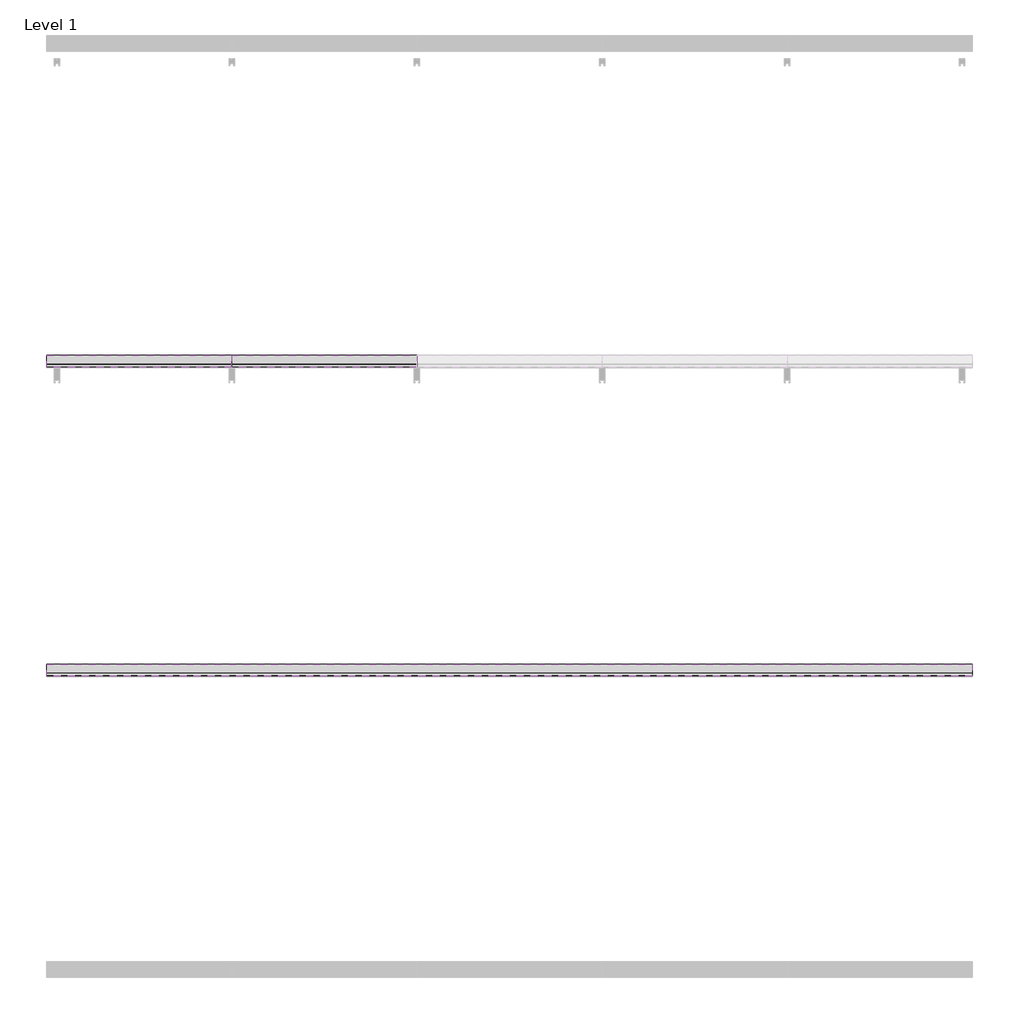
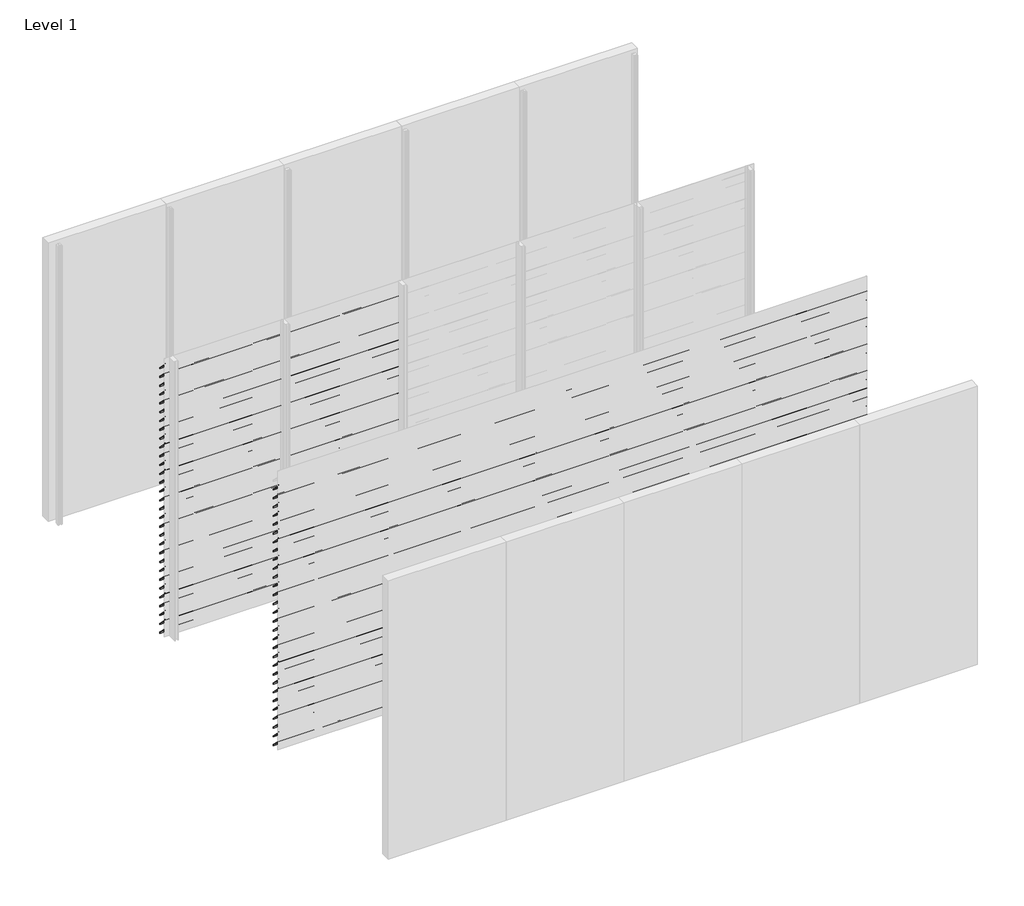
# One storey, part 16 of 24: 89 proxies.
"""IFC4 building model written with IfcOpenShell, lengths in millimetres."""

from ifc_helpers import new_model, si_unit, frame, origin, place, context, project, spatial, polyline, outline, extrude, element, save

model = new_model("IFC4")

# Units and contexts
model_context = context("Model", 3, world=origin())
ifc_project = project(units=[si_unit("LENGTHUNIT", "METRE", prefix="MILLI")], contexts=[model_context])

# Site, building, storey
site = spatial("IfcSite", under=ifc_project)
building = spatial("IfcBuilding", under=site)
storey = spatial("IfcBuildingStorey", under=building, Name="Level 1", Elevation=0.0)

# Proxies
placement = place(None, origin())
element("IfcBuildingElementProxy", 1, Name="Wall Sweeps", at=placement, inside=storey, context=model_context, shape_type="SweptSolid", body=[
    extrude(outline(polyline([(-17920.8, 2842.9), (-17922.3, 2842.9), (-17922.3, 2855.1762333), (-17998.0, 2930.4561238), (-17998.0, 2945.0), (-17996.5, 2945.0), (-17996.5, 2931.0798905), (-17920.8, 2855.8), (-17920.8, 2842.9)])), frame((0.0, 0.0, 0.0), z_axis=(1.0, 0.0, 0.0), x_axis=(0.0, 1.0, 0.0)), (0.0, 0.0, 1.0), 1200.0),
])
element("IfcBuildingElementProxy", 2, Name="Wall Sweeps", at=placement, inside=storey, context=model_context, shape_type="SweptSolid", body=[
    extrude(outline(polyline([(-17920.8, 2747.9), (-17922.3, 2747.9), (-17922.3, 2760.1762333), (-17998.0, 2835.4561238), (-17998.0, 2850.0), (-17996.5, 2850.0), (-17996.5, 2836.0798905), (-17920.8, 2760.8), (-17920.8, 2747.9)])), frame((0.0, 0.0, 0.0), z_axis=(1.0, 0.0, 0.0), x_axis=(0.0, 1.0, 0.0)), (0.0, 0.0, 1.0), 1200.0),
])
element("IfcBuildingElementProxy", 3, Name="Wall Sweeps", at=placement, inside=storey, context=model_context, shape_type="SweptSolid", body=[
    extrude(outline(polyline([(-17920.8, 2652.9), (-17922.3, 2652.9), (-17922.3, 2665.1762333), (-17998.0, 2740.4561238), (-17998.0, 2755.0), (-17996.5, 2755.0), (-17996.5, 2741.0798905), (-17920.8, 2665.8), (-17920.8, 2652.9)])), frame((0.0, 0.0, 0.0), z_axis=(1.0, 0.0, 0.0), x_axis=(0.0, 1.0, 0.0)), (0.0, 0.0, 1.0), 1200.0),
])
element("IfcBuildingElementProxy", 4, Name="Wall Sweeps", at=placement, inside=storey, context=model_context, shape_type="SweptSolid", body=[
    extrude(outline(polyline([(-17920.8, 2557.9), (-17922.3, 2557.9), (-17922.3, 2570.1762333), (-17998.0, 2645.4561238), (-17998.0, 2660.0), (-17996.5, 2660.0), (-17996.5, 2646.0798905), (-17920.8, 2570.8), (-17920.8, 2557.9)])), frame((0.0, 0.0, 0.0), z_axis=(1.0, 0.0, 0.0), x_axis=(0.0, 1.0, 0.0)), (0.0, 0.0, 1.0), 1200.0),
])
element("IfcBuildingElementProxy", 5, Name="Wall Sweeps", at=placement, inside=storey, context=model_context, shape_type="SweptSolid", body=[
    extrude(outline(polyline([(-17920.8, 2462.9), (-17922.3, 2462.9), (-17922.3, 2475.1762333), (-17998.0, 2550.4561238), (-17998.0, 2565.0), (-17996.5, 2565.0), (-17996.5, 2551.0798905), (-17920.8, 2475.8), (-17920.8, 2462.9)])), frame((0.0, 0.0, 0.0), z_axis=(1.0, 0.0, 0.0), x_axis=(0.0, 1.0, 0.0)), (0.0, 0.0, 1.0), 1200.0),
])
element("IfcBuildingElementProxy", 6, Name="Wall Sweeps", at=placement, inside=storey, context=model_context, shape_type="SweptSolid", body=[
    extrude(outline(polyline([(-17920.8, 2367.9), (-17922.3, 2367.9), (-17922.3, 2380.1762333), (-17998.0, 2455.4561238), (-17998.0, 2470.0), (-17996.5, 2470.0), (-17996.5, 2456.0798905), (-17920.8, 2380.8), (-17920.8, 2367.9)])), frame((0.0, 0.0, 0.0), z_axis=(1.0, 0.0, 0.0), x_axis=(0.0, 1.0, 0.0)), (0.0, 0.0, 1.0), 1200.0),
])
element("IfcBuildingElementProxy", 7, Name="Wall Sweeps", at=placement, inside=storey, context=model_context, shape_type="SweptSolid", body=[
    extrude(outline(polyline([(-17920.8, 2272.9), (-17922.3, 2272.9), (-17922.3, 2285.1762333), (-17998.0, 2360.4561238), (-17998.0, 2375.0), (-17996.5, 2375.0), (-17996.5, 2361.0798905), (-17920.8, 2285.8), (-17920.8, 2272.9)])), frame((0.0, 0.0, 0.0), z_axis=(1.0, 0.0, 0.0), x_axis=(0.0, 1.0, 0.0)), (0.0, 0.0, 1.0), 1200.0),
])
element("IfcBuildingElementProxy", 8, Name="Wall Sweeps", at=placement, inside=storey, context=model_context, shape_type="SweptSolid", body=[
    extrude(outline(polyline([(-17920.8, 2177.9), (-17922.3, 2177.9), (-17922.3, 2190.1762333), (-17998.0, 2265.4561238), (-17998.0, 2280.0), (-17996.5, 2280.0), (-17996.5, 2266.0798905), (-17920.8, 2190.8), (-17920.8, 2177.9)])), frame((0.0, 0.0, 0.0), z_axis=(1.0, 0.0, 0.0), x_axis=(0.0, 1.0, 0.0)), (0.0, 0.0, 1.0), 1200.0),
])
element("IfcBuildingElementProxy", 9, Name="Wall Sweeps", at=placement, inside=storey, context=model_context, shape_type="SweptSolid", body=[
    extrude(outline(polyline([(-17920.8, 2082.9), (-17922.3, 2082.9), (-17922.3, 2095.1762333), (-17998.0, 2170.4561238), (-17998.0, 2185.0), (-17996.5, 2185.0), (-17996.5, 2171.0798905), (-17920.8, 2095.8), (-17920.8, 2082.9)])), frame((0.0, 0.0, 0.0), z_axis=(1.0, 0.0, 0.0), x_axis=(0.0, 1.0, 0.0)), (0.0, 0.0, 1.0), 1200.0),
])
element("IfcBuildingElementProxy", 10, Name="Wall Sweeps", at=placement, inside=storey, context=model_context, shape_type="SweptSolid", body=[
    extrude(outline(polyline([(-17920.8, 1987.9), (-17922.3, 1987.9), (-17922.3, 2000.1762333), (-17998.0, 2075.4561238), (-17998.0, 2090.0), (-17996.5, 2090.0), (-17996.5, 2076.0798905), (-17920.8, 2000.8), (-17920.8, 1987.9)])), frame((0.0, 0.0, 0.0), z_axis=(1.0, 0.0, 0.0), x_axis=(0.0, 1.0, 0.0)), (0.0, 0.0, 1.0), 1200.0),
])
element("IfcBuildingElementProxy", 11, Name="Wall Sweeps", at=placement, inside=storey, context=model_context, shape_type="SweptSolid", body=[
    extrude(outline(polyline([(-17920.8, 1892.9), (-17922.3, 1892.9), (-17922.3, 1905.1762333), (-17998.0, 1980.4561238), (-17998.0, 1995.0), (-17996.5, 1995.0), (-17996.5, 1981.0798905), (-17920.8, 1905.8), (-17920.8, 1892.9)])), frame((0.0, 0.0, 0.0), z_axis=(1.0, 0.0, 0.0), x_axis=(0.0, 1.0, 0.0)), (0.0, 0.0, 1.0), 1200.0),
])
element("IfcBuildingElementProxy", 12, Name="Wall Sweeps", at=placement, inside=storey, context=model_context, shape_type="SweptSolid", body=[
    extrude(outline(polyline([(-17920.8, 1797.9), (-17922.3, 1797.9), (-17922.3, 1810.1762333), (-17998.0, 1885.4561238), (-17998.0, 1900.0), (-17996.5, 1900.0), (-17996.5, 1886.0798905), (-17920.8, 1810.8), (-17920.8, 1797.9)])), frame((0.0, 0.0, 0.0), z_axis=(1.0, 0.0, 0.0), x_axis=(0.0, 1.0, 0.0)), (0.0, 0.0, 1.0), 1200.0),
])
element("IfcBuildingElementProxy", 13, Name="Wall Sweeps", at=placement, inside=storey, context=model_context, shape_type="SweptSolid", body=[
    extrude(outline(polyline([(-17920.8, 1702.9), (-17922.3, 1702.9), (-17922.3, 1715.1762333), (-17998.0, 1790.4561238), (-17998.0, 1805.0), (-17996.5, 1805.0), (-17996.5, 1791.0798905), (-17920.8, 1715.8), (-17920.8, 1702.9)])), frame((0.0, 0.0, 0.0), z_axis=(1.0, 0.0, 0.0), x_axis=(0.0, 1.0, 0.0)), (0.0, 0.0, 1.0), 1200.0),
])
element("IfcBuildingElementProxy", 14, Name="Wall Sweeps", at=placement, inside=storey, context=model_context, shape_type="SweptSolid", body=[
    extrude(outline(polyline([(-17920.8, 1607.9), (-17922.3, 1607.9), (-17922.3, 1620.1762333), (-17998.0, 1695.4561238), (-17998.0, 1710.0), (-17996.5, 1710.0), (-17996.5, 1696.0798905), (-17920.8, 1620.8), (-17920.8, 1607.9)])), frame((0.0, 0.0, 0.0), z_axis=(1.0, 0.0, 0.0), x_axis=(0.0, 1.0, 0.0)), (0.0, 0.0, 1.0), 1200.0),
])
element("IfcBuildingElementProxy", 15, Name="Wall Sweeps", at=placement, inside=storey, context=model_context, shape_type="SweptSolid", body=[
    extrude(outline(polyline([(-17920.8, 1512.9), (-17922.3, 1512.9), (-17922.3, 1525.1762333), (-17998.0, 1600.4561238), (-17998.0, 1615.0), (-17996.5, 1615.0), (-17996.5, 1601.0798905), (-17920.8, 1525.8), (-17920.8, 1512.9)])), frame((0.0, 0.0, 0.0), z_axis=(1.0, 0.0, 0.0), x_axis=(0.0, 1.0, 0.0)), (0.0, 0.0, 1.0), 1200.0),
])
element("IfcBuildingElementProxy", 16, Name="Wall Sweeps", at=placement, inside=storey, context=model_context, shape_type="SweptSolid", body=[
    extrude(outline(polyline([(-17920.8, 1417.9), (-17922.3, 1417.9), (-17922.3, 1430.1762333), (-17998.0, 1505.4561238), (-17998.0, 1520.0), (-17996.5, 1520.0), (-17996.5, 1506.0798905), (-17920.8, 1430.8), (-17920.8, 1417.9)])), frame((0.0, 0.0, 0.0), z_axis=(1.0, 0.0, 0.0), x_axis=(0.0, 1.0, 0.0)), (0.0, 0.0, 1.0), 1200.0),
])
element("IfcBuildingElementProxy", 17, Name="Wall Sweeps", at=placement, inside=storey, context=model_context, shape_type="SweptSolid", body=[
    extrude(outline(polyline([(-17920.8, 1322.9), (-17922.3, 1322.9), (-17922.3, 1335.1762333), (-17998.0, 1410.4561238), (-17998.0, 1425.0), (-17996.5, 1425.0), (-17996.5, 1411.0798905), (-17920.8, 1335.8), (-17920.8, 1322.9)])), frame((0.0, 0.0, 0.0), z_axis=(1.0, 0.0, 0.0), x_axis=(0.0, 1.0, 0.0)), (0.0, 0.0, 1.0), 1200.0),
])
element("IfcBuildingElementProxy", 18, Name="Wall Sweeps", at=placement, inside=storey, context=model_context, shape_type="SweptSolid", body=[
    extrude(outline(polyline([(-17920.8, 1227.9), (-17922.3, 1227.9), (-17922.3, 1240.1762333), (-17998.0, 1315.4561238), (-17998.0, 1330.0), (-17996.5, 1330.0), (-17996.5, 1316.0798905), (-17920.8, 1240.8), (-17920.8, 1227.9)])), frame((0.0, 0.0, 0.0), z_axis=(1.0, 0.0, 0.0), x_axis=(0.0, 1.0, 0.0)), (0.0, 0.0, 1.0), 1200.0),
])
element("IfcBuildingElementProxy", 19, Name="Wall Sweeps", at=placement, inside=storey, context=model_context, shape_type="SweptSolid", body=[
    extrude(outline(polyline([(-17920.8, 1132.9), (-17922.3, 1132.9), (-17922.3, 1145.1762333), (-17998.0, 1220.4561238), (-17998.0, 1235.0), (-17996.5, 1235.0), (-17996.5, 1221.0798905), (-17920.8, 1145.8), (-17920.8, 1132.9)])), frame((0.0, 0.0, 0.0), z_axis=(1.0, 0.0, 0.0), x_axis=(0.0, 1.0, 0.0)), (0.0, 0.0, 1.0), 1200.0),
])
element("IfcBuildingElementProxy", 20, Name="Wall Sweeps", at=placement, inside=storey, context=model_context, shape_type="SweptSolid", body=[
    extrude(outline(polyline([(-17920.8, 1037.9), (-17922.3, 1037.9), (-17922.3, 1050.1762333), (-17998.0, 1125.4561238), (-17998.0, 1140.0), (-17996.5, 1140.0), (-17996.5, 1126.0798905), (-17920.8, 1050.8), (-17920.8, 1037.9)])), frame((0.0, 0.0, 0.0), z_axis=(1.0, 0.0, 0.0), x_axis=(0.0, 1.0, 0.0)), (0.0, 0.0, 1.0), 1200.0),
])
element("IfcBuildingElementProxy", 21, Name="Wall Sweeps", at=placement, inside=storey, context=model_context, shape_type="SweptSolid", body=[
    extrude(outline(polyline([(-17920.8, 942.9), (-17922.3, 942.9), (-17922.3, 955.1762333), (-17998.0, 1030.4561238), (-17998.0, 1045.0), (-17996.5, 1045.0), (-17996.5, 1031.0798905), (-17920.8, 955.8), (-17920.8, 942.9)])), frame((0.0, 0.0, 0.0), z_axis=(1.0, 0.0, 0.0), x_axis=(0.0, 1.0, 0.0)), (0.0, 0.0, 1.0), 1200.0),
])
element("IfcBuildingElementProxy", 22, Name="Wall Sweeps", at=placement, inside=storey, context=model_context, shape_type="SweptSolid", body=[
    extrude(outline(polyline([(-17920.8, 847.9), (-17922.3, 847.9), (-17922.3, 860.1762333), (-17998.0, 935.4561238), (-17998.0, 950.0), (-17996.5, 950.0), (-17996.5, 936.0798905), (-17920.8, 860.8), (-17920.8, 847.9)])), frame((0.0, 0.0, 0.0), z_axis=(1.0, 0.0, 0.0), x_axis=(0.0, 1.0, 0.0)), (0.0, 0.0, 1.0), 1200.0),
])
element("IfcBuildingElementProxy", 23, Name="Wall Sweeps", at=placement, inside=storey, context=model_context, shape_type="SweptSolid", body=[
    extrude(outline(polyline([(-17920.8, 752.9), (-17922.3, 752.9), (-17922.3, 765.1762333), (-17998.0, 840.4561238), (-17998.0, 855.0), (-17996.5, 855.0), (-17996.5, 841.0798905), (-17920.8, 765.8), (-17920.8, 752.9)])), frame((0.0, 0.0, 0.0), z_axis=(1.0, 0.0, 0.0), x_axis=(0.0, 1.0, 0.0)), (0.0, 0.0, 1.0), 1200.0),
])
element("IfcBuildingElementProxy", 24, Name="Wall Sweeps", at=placement, inside=storey, context=model_context, shape_type="SweptSolid", body=[
    extrude(outline(polyline([(-17920.8, 657.9), (-17922.3, 657.9), (-17922.3, 670.1762333), (-17998.0, 745.4561238), (-17998.0, 760.0), (-17996.5, 760.0), (-17996.5, 746.0798905), (-17920.8, 670.8), (-17920.8, 657.9)])), frame((0.0, 0.0, 0.0), z_axis=(1.0, 0.0, 0.0), x_axis=(0.0, 1.0, 0.0)), (0.0, 0.0, 1.0), 1200.0),
])
element("IfcBuildingElementProxy", 25, Name="Wall Sweeps", at=placement, inside=storey, context=model_context, shape_type="SweptSolid", body=[
    extrude(outline(polyline([(-17920.8, 562.9), (-17922.3, 562.9), (-17922.3, 575.1762333), (-17998.0, 650.4561238), (-17998.0, 665.0), (-17996.5, 665.0), (-17996.5, 651.0798905), (-17920.8, 575.8), (-17920.8, 562.9)])), frame((0.0, 0.0, 0.0), z_axis=(1.0, 0.0, 0.0), x_axis=(0.0, 1.0, 0.0)), (0.0, 0.0, 1.0), 1200.0),
])
element("IfcBuildingElementProxy", 26, Name="Wall Sweeps", at=placement, inside=storey, context=model_context, shape_type="SweptSolid", body=[
    extrude(outline(polyline([(-17920.8, 467.9), (-17922.3, 467.9), (-17922.3, 480.1762333), (-17998.0, 555.4561238), (-17998.0, 570.0), (-17996.5, 570.0), (-17996.5, 556.0798905), (-17920.8, 480.8), (-17920.8, 467.9)])), frame((0.0, 0.0, 0.0), z_axis=(1.0, 0.0, 0.0), x_axis=(0.0, 1.0, 0.0)), (0.0, 0.0, 1.0), 1200.0),
])
element("IfcBuildingElementProxy", 27, Name="Wall Sweeps", at=placement, inside=storey, context=model_context, shape_type="SweptSolid", body=[
    extrude(outline(polyline([(-17920.8, 372.9), (-17922.3, 372.9), (-17922.3, 385.1762333), (-17998.0, 460.4561238), (-17998.0, 475.0), (-17996.5, 475.0), (-17996.5, 461.0798905), (-17920.8, 385.8), (-17920.8, 372.9)])), frame((0.0, 0.0, 0.0), z_axis=(1.0, 0.0, 0.0), x_axis=(0.0, 1.0, 0.0)), (0.0, 0.0, 1.0), 1200.0),
])
element("IfcBuildingElementProxy", 28, Name="Wall Sweeps", at=placement, inside=storey, context=model_context, shape_type="SweptSolid", body=[
    extrude(outline(polyline([(-17920.8, 277.9), (-17922.3, 277.9), (-17922.3, 290.1762333), (-17998.0, 365.4561238), (-17998.0, 380.0), (-17996.5, 380.0), (-17996.5, 366.0798905), (-17920.8, 290.8), (-17920.8, 277.9)])), frame((0.0, 0.0, 0.0), z_axis=(1.0, 0.0, 0.0), x_axis=(0.0, 1.0, 0.0)), (0.0, 0.0, 1.0), 1200.0),
])
element("IfcBuildingElementProxy", 29, Name="Wall Sweeps", at=placement, inside=storey, context=model_context, shape_type="SweptSolid", body=[
    extrude(outline(polyline([(-17920.8, 182.9), (-17922.3, 182.9), (-17922.3, 195.1762333), (-17998.0, 270.4561238), (-17998.0, 285.0), (-17996.5, 285.0), (-17996.5, 271.0798905), (-17920.8, 195.8), (-17920.8, 182.9)])), frame((0.0, 0.0, 0.0), z_axis=(1.0, 0.0, 0.0), x_axis=(0.0, 1.0, 0.0)), (0.0, 0.0, 1.0), 1200.0),
])
element("IfcBuildingElementProxy", 30, Name="Wall Sweeps", at=placement, inside=storey, context=model_context, shape_type="SweptSolid", body=[
    extrude(outline(polyline([(-17920.8, 87.9), (-17922.3, 87.9), (-17922.3, 100.1762333), (-17998.0, 175.4561238), (-17998.0, 190.0), (-17996.5, 190.0), (-17996.5, 176.0798905), (-17920.8, 100.8), (-17920.8, 87.9)])), frame((0.0, 0.0, 0.0), z_axis=(1.0, 0.0, 0.0), x_axis=(0.0, 1.0, 0.0)), (0.0, 0.0, 1.0), 1200.0),
])
element("IfcBuildingElementProxy", 31, Name="Wall Sweeps", at=placement, inside=storey, context=model_context, shape_type="SweptSolid", body=[
    extrude(outline(polyline([(-17920.8, -7.1), (-17922.3, -7.1), (-17922.3, 5.1762333), (-17998.0, 80.4561238), (-17998.0, 95.0), (-17996.5, 95.0), (-17996.5, 81.0798905), (-17920.8, 5.8), (-17920.8, -7.1)])), frame((0.0, 0.0, 0.0), z_axis=(1.0, 0.0, 0.0), x_axis=(0.0, 1.0, 0.0)), (0.0, 0.0, 1.0), 1200.0),
])
element("IfcBuildingElementProxy", 32, Name="Wall Sweeps", at=placement, inside=storey, context=model_context, shape_type="SweptSolid", body=[
    extrude(outline(polyline([(-17920.8, 2842.9), (-17922.3, 2842.9), (-17922.3, 2855.1762333), (-17998.0, 2930.4561238), (-17998.0, 2945.0), (-17996.5, 2945.0), (-17996.5, 2931.0798905), (-17920.8, 2855.8), (-17920.8, 2842.9)])), frame((1200.0, 0.0, 0.0), z_axis=(1.0, 0.0, 0.0), x_axis=(0.0, 1.0, 0.0)), (0.0, 0.0, 1.0), 1200.0),
])
element("IfcBuildingElementProxy", 33, Name="Wall Sweeps", at=placement, inside=storey, context=model_context, shape_type="SweptSolid", body=[
    extrude(outline(polyline([(-17920.8, 2747.9), (-17922.3, 2747.9), (-17922.3, 2760.1762333), (-17998.0, 2835.4561238), (-17998.0, 2850.0), (-17996.5, 2850.0), (-17996.5, 2836.0798905), (-17920.8, 2760.8), (-17920.8, 2747.9)])), frame((1200.0, 0.0, 0.0), z_axis=(1.0, 0.0, 0.0), x_axis=(0.0, 1.0, 0.0)), (0.0, 0.0, 1.0), 1200.0),
])
element("IfcBuildingElementProxy", 34, Name="Wall Sweeps", at=placement, inside=storey, context=model_context, shape_type="SweptSolid", body=[
    extrude(outline(polyline([(-17920.8, 2652.9), (-17922.3, 2652.9), (-17922.3, 2665.1762333), (-17998.0, 2740.4561238), (-17998.0, 2755.0), (-17996.5, 2755.0), (-17996.5, 2741.0798905), (-17920.8, 2665.8), (-17920.8, 2652.9)])), frame((1200.0, 0.0, 0.0), z_axis=(1.0, 0.0, 0.0), x_axis=(0.0, 1.0, 0.0)), (0.0, 0.0, 1.0), 1200.0),
])
element("IfcBuildingElementProxy", 35, Name="Wall Sweeps", at=placement, inside=storey, context=model_context, shape_type="SweptSolid", body=[
    extrude(outline(polyline([(-17920.8, 2557.9), (-17922.3, 2557.9), (-17922.3, 2570.1762333), (-17998.0, 2645.4561238), (-17998.0, 2660.0), (-17996.5, 2660.0), (-17996.5, 2646.0798905), (-17920.8, 2570.8), (-17920.8, 2557.9)])), frame((1200.0, 0.0, 0.0), z_axis=(1.0, 0.0, 0.0), x_axis=(0.0, 1.0, 0.0)), (0.0, 0.0, 1.0), 1200.0),
])
element("IfcBuildingElementProxy", 36, Name="Wall Sweeps", at=placement, inside=storey, context=model_context, shape_type="SweptSolid", body=[
    extrude(outline(polyline([(-17920.8, 2462.9), (-17922.3, 2462.9), (-17922.3, 2475.1762333), (-17998.0, 2550.4561238), (-17998.0, 2565.0), (-17996.5, 2565.0), (-17996.5, 2551.0798905), (-17920.8, 2475.8), (-17920.8, 2462.9)])), frame((1200.0, 0.0, 0.0), z_axis=(1.0, 0.0, 0.0), x_axis=(0.0, 1.0, 0.0)), (0.0, 0.0, 1.0), 1200.0),
])
element("IfcBuildingElementProxy", 37, Name="Wall Sweeps", at=placement, inside=storey, context=model_context, shape_type="SweptSolid", body=[
    extrude(outline(polyline([(-17920.8, 2367.9), (-17922.3, 2367.9), (-17922.3, 2380.1762333), (-17998.0, 2455.4561238), (-17998.0, 2470.0), (-17996.5, 2470.0), (-17996.5, 2456.0798905), (-17920.8, 2380.8), (-17920.8, 2367.9)])), frame((1200.0, 0.0, 0.0), z_axis=(1.0, 0.0, 0.0), x_axis=(0.0, 1.0, 0.0)), (0.0, 0.0, 1.0), 1200.0),
])
element("IfcBuildingElementProxy", 38, Name="Wall Sweeps", at=placement, inside=storey, context=model_context, shape_type="SweptSolid", body=[
    extrude(outline(polyline([(-17920.8, 2272.9), (-17922.3, 2272.9), (-17922.3, 2285.1762333), (-17998.0, 2360.4561238), (-17998.0, 2375.0), (-17996.5, 2375.0), (-17996.5, 2361.0798905), (-17920.8, 2285.8), (-17920.8, 2272.9)])), frame((1200.0, 0.0, 0.0), z_axis=(1.0, 0.0, 0.0), x_axis=(0.0, 1.0, 0.0)), (0.0, 0.0, 1.0), 1200.0),
])
element("IfcBuildingElementProxy", 39, Name="Wall Sweeps", at=placement, inside=storey, context=model_context, shape_type="SweptSolid", body=[
    extrude(outline(polyline([(-17920.8, 2177.9), (-17922.3, 2177.9), (-17922.3, 2190.1762333), (-17998.0, 2265.4561238), (-17998.0, 2280.0), (-17996.5, 2280.0), (-17996.5, 2266.0798905), (-17920.8, 2190.8), (-17920.8, 2177.9)])), frame((1200.0, 0.0, 0.0), z_axis=(1.0, 0.0, 0.0), x_axis=(0.0, 1.0, 0.0)), (0.0, 0.0, 1.0), 1200.0),
])
element("IfcBuildingElementProxy", 40, Name="Wall Sweeps", at=placement, inside=storey, context=model_context, shape_type="SweptSolid", body=[
    extrude(outline(polyline([(-17920.8, 2082.9), (-17922.3, 2082.9), (-17922.3, 2095.1762333), (-17998.0, 2170.4561238), (-17998.0, 2185.0), (-17996.5, 2185.0), (-17996.5, 2171.0798905), (-17920.8, 2095.8), (-17920.8, 2082.9)])), frame((1200.0, 0.0, 0.0), z_axis=(1.0, 0.0, 0.0), x_axis=(0.0, 1.0, 0.0)), (0.0, 0.0, 1.0), 1200.0),
])
element("IfcBuildingElementProxy", 41, Name="Wall Sweeps", at=placement, inside=storey, context=model_context, shape_type="SweptSolid", body=[
    extrude(outline(polyline([(-17920.8, 1987.9), (-17922.3, 1987.9), (-17922.3, 2000.1762333), (-17998.0, 2075.4561238), (-17998.0, 2090.0), (-17996.5, 2090.0), (-17996.5, 2076.0798905), (-17920.8, 2000.8), (-17920.8, 1987.9)])), frame((1200.0, 0.0, 0.0), z_axis=(1.0, 0.0, 0.0), x_axis=(0.0, 1.0, 0.0)), (0.0, 0.0, 1.0), 1200.0),
])
element("IfcBuildingElementProxy", 42, Name="Wall Sweeps", at=placement, inside=storey, context=model_context, shape_type="SweptSolid", body=[
    extrude(outline(polyline([(-17920.8, 1892.9), (-17922.3, 1892.9), (-17922.3, 1905.1762333), (-17998.0, 1980.4561238), (-17998.0, 1995.0), (-17996.5, 1995.0), (-17996.5, 1981.0798905), (-17920.8, 1905.8), (-17920.8, 1892.9)])), frame((1200.0, 0.0, 0.0), z_axis=(1.0, 0.0, 0.0), x_axis=(0.0, 1.0, 0.0)), (0.0, 0.0, 1.0), 1200.0),
])
element("IfcBuildingElementProxy", 43, Name="Wall Sweeps", at=placement, inside=storey, context=model_context, shape_type="SweptSolid", body=[
    extrude(outline(polyline([(-17920.8, 1797.9), (-17922.3, 1797.9), (-17922.3, 1810.1762333), (-17998.0, 1885.4561238), (-17998.0, 1900.0), (-17996.5, 1900.0), (-17996.5, 1886.0798905), (-17920.8, 1810.8), (-17920.8, 1797.9)])), frame((1200.0, 0.0, 0.0), z_axis=(1.0, 0.0, 0.0), x_axis=(0.0, 1.0, 0.0)), (0.0, 0.0, 1.0), 1200.0),
])
element("IfcBuildingElementProxy", 44, Name="Wall Sweeps", at=placement, inside=storey, context=model_context, shape_type="SweptSolid", body=[
    extrude(outline(polyline([(-17920.8, 1702.9), (-17922.3, 1702.9), (-17922.3, 1715.1762333), (-17998.0, 1790.4561238), (-17998.0, 1805.0), (-17996.5, 1805.0), (-17996.5, 1791.0798905), (-17920.8, 1715.8), (-17920.8, 1702.9)])), frame((1200.0, 0.0, 0.0), z_axis=(1.0, 0.0, 0.0), x_axis=(0.0, 1.0, 0.0)), (0.0, 0.0, 1.0), 1200.0),
])
element("IfcBuildingElementProxy", 45, Name="Wall Sweeps", at=placement, inside=storey, context=model_context, shape_type="SweptSolid", body=[
    extrude(outline(polyline([(-17920.8, 1607.9), (-17922.3, 1607.9), (-17922.3, 1620.1762333), (-17998.0, 1695.4561238), (-17998.0, 1710.0), (-17996.5, 1710.0), (-17996.5, 1696.0798905), (-17920.8, 1620.8), (-17920.8, 1607.9)])), frame((1200.0, 0.0, 0.0), z_axis=(1.0, 0.0, 0.0), x_axis=(0.0, 1.0, 0.0)), (0.0, 0.0, 1.0), 1200.0),
])
element("IfcBuildingElementProxy", 46, Name="Wall Sweeps", at=placement, inside=storey, context=model_context, shape_type="SweptSolid", body=[
    extrude(outline(polyline([(-17920.8, 1512.9), (-17922.3, 1512.9), (-17922.3, 1525.1762333), (-17998.0, 1600.4561238), (-17998.0, 1615.0), (-17996.5, 1615.0), (-17996.5, 1601.0798905), (-17920.8, 1525.8), (-17920.8, 1512.9)])), frame((1200.0, 0.0, 0.0), z_axis=(1.0, 0.0, 0.0), x_axis=(0.0, 1.0, 0.0)), (0.0, 0.0, 1.0), 1200.0),
])
element("IfcBuildingElementProxy", 47, Name="Wall Sweeps", at=placement, inside=storey, context=model_context, shape_type="SweptSolid", body=[
    extrude(outline(polyline([(-17920.8, 1417.9), (-17922.3, 1417.9), (-17922.3, 1430.1762333), (-17998.0, 1505.4561238), (-17998.0, 1520.0), (-17996.5, 1520.0), (-17996.5, 1506.0798905), (-17920.8, 1430.8), (-17920.8, 1417.9)])), frame((1200.0, 0.0, 0.0), z_axis=(1.0, 0.0, 0.0), x_axis=(0.0, 1.0, 0.0)), (0.0, 0.0, 1.0), 1200.0),
])
element("IfcBuildingElementProxy", 48, Name="Wall Sweeps", at=placement, inside=storey, context=model_context, shape_type="SweptSolid", body=[
    extrude(outline(polyline([(-17920.8, 1322.9), (-17922.3, 1322.9), (-17922.3, 1335.1762333), (-17998.0, 1410.4561238), (-17998.0, 1425.0), (-17996.5, 1425.0), (-17996.5, 1411.0798905), (-17920.8, 1335.8), (-17920.8, 1322.9)])), frame((1200.0, 0.0, 0.0), z_axis=(1.0, 0.0, 0.0), x_axis=(0.0, 1.0, 0.0)), (0.0, 0.0, 1.0), 1200.0),
])
element("IfcBuildingElementProxy", 49, Name="Wall Sweeps", at=placement, inside=storey, context=model_context, shape_type="SweptSolid", body=[
    extrude(outline(polyline([(-17920.8, 1227.9), (-17922.3, 1227.9), (-17922.3, 1240.1762333), (-17998.0, 1315.4561238), (-17998.0, 1330.0), (-17996.5, 1330.0), (-17996.5, 1316.0798905), (-17920.8, 1240.8), (-17920.8, 1227.9)])), frame((1200.0, 0.0, 0.0), z_axis=(1.0, 0.0, 0.0), x_axis=(0.0, 1.0, 0.0)), (0.0, 0.0, 1.0), 1200.0),
])
element("IfcBuildingElementProxy", 50, Name="Wall Sweeps", at=placement, inside=storey, context=model_context, shape_type="SweptSolid", body=[
    extrude(outline(polyline([(-17920.8, 1132.9), (-17922.3, 1132.9), (-17922.3, 1145.1762333), (-17998.0, 1220.4561238), (-17998.0, 1235.0), (-17996.5, 1235.0), (-17996.5, 1221.0798905), (-17920.8, 1145.8), (-17920.8, 1132.9)])), frame((1200.0, 0.0, 0.0), z_axis=(1.0, 0.0, 0.0), x_axis=(0.0, 1.0, 0.0)), (0.0, 0.0, 1.0), 1200.0),
])
element("IfcBuildingElementProxy", 51, Name="Wall Sweeps", at=placement, inside=storey, context=model_context, shape_type="SweptSolid", body=[
    extrude(outline(polyline([(-17920.8, 1037.9), (-17922.3, 1037.9), (-17922.3, 1050.1762333), (-17998.0, 1125.4561238), (-17998.0, 1140.0), (-17996.5, 1140.0), (-17996.5, 1126.0798905), (-17920.8, 1050.8), (-17920.8, 1037.9)])), frame((1200.0, 0.0, 0.0), z_axis=(1.0, 0.0, 0.0), x_axis=(0.0, 1.0, 0.0)), (0.0, 0.0, 1.0), 1200.0),
])
element("IfcBuildingElementProxy", 52, Name="Wall Sweeps", at=placement, inside=storey, context=model_context, shape_type="SweptSolid", body=[
    extrude(outline(polyline([(-17920.8, 942.9), (-17922.3, 942.9), (-17922.3, 955.1762333), (-17998.0, 1030.4561238), (-17998.0, 1045.0), (-17996.5, 1045.0), (-17996.5, 1031.0798905), (-17920.8, 955.8), (-17920.8, 942.9)])), frame((1200.0, 0.0, 0.0), z_axis=(1.0, 0.0, 0.0), x_axis=(0.0, 1.0, 0.0)), (0.0, 0.0, 1.0), 1200.0),
])
element("IfcBuildingElementProxy", 53, Name="Wall Sweeps", at=placement, inside=storey, context=model_context, shape_type="SweptSolid", body=[
    extrude(outline(polyline([(-17920.8, 847.9), (-17922.3, 847.9), (-17922.3, 860.1762333), (-17998.0, 935.4561238), (-17998.0, 950.0), (-17996.5, 950.0), (-17996.5, 936.0798905), (-17920.8, 860.8), (-17920.8, 847.9)])), frame((1200.0, 0.0, 0.0), z_axis=(1.0, 0.0, 0.0), x_axis=(0.0, 1.0, 0.0)), (0.0, 0.0, 1.0), 1200.0),
])
element("IfcBuildingElementProxy", 54, Name="Wall Sweeps", at=placement, inside=storey, context=model_context, shape_type="SweptSolid", body=[
    extrude(outline(polyline([(-17920.8, 752.9), (-17922.3, 752.9), (-17922.3, 765.1762333), (-17998.0, 840.4561238), (-17998.0, 855.0), (-17996.5, 855.0), (-17996.5, 841.0798905), (-17920.8, 765.8), (-17920.8, 752.9)])), frame((1200.0, 0.0, 0.0), z_axis=(1.0, 0.0, 0.0), x_axis=(0.0, 1.0, 0.0)), (0.0, 0.0, 1.0), 1200.0),
])
element("IfcBuildingElementProxy", 55, Name="Wall Sweeps", at=placement, inside=storey, context=model_context, shape_type="SweptSolid", body=[
    extrude(outline(polyline([(-17920.8, 657.9), (-17922.3, 657.9), (-17922.3, 670.1762333), (-17998.0, 745.4561238), (-17998.0, 760.0), (-17996.5, 760.0), (-17996.5, 746.0798905), (-17920.8, 670.8), (-17920.8, 657.9)])), frame((1200.0, 0.0, 0.0), z_axis=(1.0, 0.0, 0.0), x_axis=(0.0, 1.0, 0.0)), (0.0, 0.0, 1.0), 1200.0),
])
element("IfcBuildingElementProxy", 56, Name="Wall Sweeps", at=placement, inside=storey, context=model_context, shape_type="SweptSolid", body=[
    extrude(outline(polyline([(-17920.8, 562.9), (-17922.3, 562.9), (-17922.3, 575.1762333), (-17998.0, 650.4561238), (-17998.0, 665.0), (-17996.5, 665.0), (-17996.5, 651.0798905), (-17920.8, 575.8), (-17920.8, 562.9)])), frame((1200.0, 0.0, 0.0), z_axis=(1.0, 0.0, 0.0), x_axis=(0.0, 1.0, 0.0)), (0.0, 0.0, 1.0), 1200.0),
])
element("IfcBuildingElementProxy", 57, Name="Wall Sweeps", at=placement, inside=storey, context=model_context, shape_type="SweptSolid", body=[
    extrude(outline(polyline([(-17920.8, 467.9), (-17922.3, 467.9), (-17922.3, 480.1762333), (-17998.0, 555.4561238), (-17998.0, 570.0), (-17996.5, 570.0), (-17996.5, 556.0798905), (-17920.8, 480.8), (-17920.8, 467.9)])), frame((1200.0, 0.0, 0.0), z_axis=(1.0, 0.0, 0.0), x_axis=(0.0, 1.0, 0.0)), (0.0, 0.0, 1.0), 1200.0),
])
element("IfcBuildingElementProxy", 58, Name="Wall Sweeps", at=placement, inside=storey, context=model_context, shape_type="SweptSolid", body=[
    extrude(outline(polyline([(-17920.8, 372.9), (-17922.3, 372.9), (-17922.3, 385.1762333), (-17998.0, 460.4561238), (-17998.0, 475.0), (-17996.5, 475.0), (-17996.5, 461.0798905), (-17920.8, 385.8), (-17920.8, 372.9)])), frame((1200.0, 0.0, 0.0), z_axis=(1.0, 0.0, 0.0), x_axis=(0.0, 1.0, 0.0)), (0.0, 0.0, 1.0), 1200.0),
])
element("IfcBuildingElementProxy", 59, Name="Wall Sweeps", at=placement, inside=storey, context=model_context, shape_type="SweptSolid", body=[
    extrude(outline(polyline([(-17920.8, 277.9), (-17922.3, 277.9), (-17922.3, 290.1762333), (-17998.0, 365.4561238), (-17998.0, 380.0), (-17996.5, 380.0), (-17996.5, 366.0798905), (-17920.8, 290.8), (-17920.8, 277.9)])), frame((1200.0, 0.0, 0.0), z_axis=(1.0, 0.0, 0.0), x_axis=(0.0, 1.0, 0.0)), (0.0, 0.0, 1.0), 1200.0),
])
element("IfcBuildingElementProxy", 60, Name="Wall Sweeps", at=placement, inside=storey, context=model_context, shape_type="SweptSolid", body=[
    extrude(outline(polyline([(-19920.8, 2747.9), (-19922.3, 2747.9), (-19922.3, 2760.1762333), (-19998.0, 2835.4561238), (-19998.0, 2850.0), (-19996.5, 2850.0), (-19996.5, 2836.0798905), (-19920.8, 2760.8), (-19920.8, 2747.9)])), frame((0.0, 0.0, 0.0), z_axis=(1.0, 0.0, 0.0), x_axis=(0.0, 1.0, 0.0)), (0.0, 0.0, 1.0), 6000.0),
])
element("IfcBuildingElementProxy", 61, Name="Wall Sweeps", at=placement, inside=storey, context=model_context, shape_type="SweptSolid", body=[
    extrude(outline(polyline([(-19920.8, 2652.9), (-19922.3, 2652.9), (-19922.3, 2665.1762333), (-19998.0, 2740.4561238), (-19998.0, 2755.0), (-19996.5, 2755.0), (-19996.5, 2741.0798905), (-19920.8, 2665.8), (-19920.8, 2652.9)])), frame((0.0, 0.0, 0.0), z_axis=(1.0, 0.0, 0.0), x_axis=(0.0, 1.0, 0.0)), (0.0, 0.0, 1.0), 6000.0),
])
element("IfcBuildingElementProxy", 62, Name="Wall Sweeps", at=placement, inside=storey, context=model_context, shape_type="SweptSolid", body=[
    extrude(outline(polyline([(-19920.8, 2557.9), (-19922.3, 2557.9), (-19922.3, 2570.1762333), (-19998.0, 2645.4561238), (-19998.0, 2660.0), (-19996.5, 2660.0), (-19996.5, 2646.0798905), (-19920.8, 2570.8), (-19920.8, 2557.9)])), frame((0.0, 0.0, 0.0), z_axis=(1.0, 0.0, 0.0), x_axis=(0.0, 1.0, 0.0)), (0.0, 0.0, 1.0), 6000.0),
])
element("IfcBuildingElementProxy", 63, Name="Wall Sweeps", at=placement, inside=storey, context=model_context, shape_type="SweptSolid", body=[
    extrude(outline(polyline([(-19920.8, 2462.9), (-19922.3, 2462.9), (-19922.3, 2475.1762333), (-19998.0, 2550.4561238), (-19998.0, 2565.0), (-19996.5, 2565.0), (-19996.5, 2551.0798905), (-19920.8, 2475.8), (-19920.8, 2462.9)])), frame((0.0, 0.0, 0.0), z_axis=(1.0, 0.0, 0.0), x_axis=(0.0, 1.0, 0.0)), (0.0, 0.0, 1.0), 6000.0),
])
element("IfcBuildingElementProxy", 64, Name="Wall Sweeps", at=placement, inside=storey, context=model_context, shape_type="SweptSolid", body=[
    extrude(outline(polyline([(-19920.8, 2367.9), (-19922.3, 2367.9), (-19922.3, 2380.1762333), (-19998.0, 2455.4561238), (-19998.0, 2470.0), (-19996.5, 2470.0), (-19996.5, 2456.0798905), (-19920.8, 2380.8), (-19920.8, 2367.9)])), frame((0.0, 0.0, 0.0), z_axis=(1.0, 0.0, 0.0), x_axis=(0.0, 1.0, 0.0)), (0.0, 0.0, 1.0), 6000.0),
])
element("IfcBuildingElementProxy", 65, Name="Wall Sweeps", at=placement, inside=storey, context=model_context, shape_type="SweptSolid", body=[
    extrude(outline(polyline([(-19920.8, 2272.9), (-19922.3, 2272.9), (-19922.3, 2285.1762333), (-19998.0, 2360.4561238), (-19998.0, 2375.0), (-19996.5, 2375.0), (-19996.5, 2361.0798905), (-19920.8, 2285.8), (-19920.8, 2272.9)])), frame((0.0, 0.0, 0.0), z_axis=(1.0, 0.0, 0.0), x_axis=(0.0, 1.0, 0.0)), (0.0, 0.0, 1.0), 6000.0),
])
element("IfcBuildingElementProxy", 66, Name="Wall Sweeps", at=placement, inside=storey, context=model_context, shape_type="SweptSolid", body=[
    extrude(outline(polyline([(-19920.8, 2177.9), (-19922.3, 2177.9), (-19922.3, 2190.1762333), (-19998.0, 2265.4561238), (-19998.0, 2280.0), (-19996.5, 2280.0), (-19996.5, 2266.0798905), (-19920.8, 2190.8), (-19920.8, 2177.9)])), frame((0.0, 0.0, 0.0), z_axis=(1.0, 0.0, 0.0), x_axis=(0.0, 1.0, 0.0)), (0.0, 0.0, 1.0), 6000.0),
])
element("IfcBuildingElementProxy", 67, Name="Wall Sweeps", at=placement, inside=storey, context=model_context, shape_type="SweptSolid", body=[
    extrude(outline(polyline([(-19920.8, 2082.9), (-19922.3, 2082.9), (-19922.3, 2095.1762333), (-19998.0, 2170.4561238), (-19998.0, 2185.0), (-19996.5, 2185.0), (-19996.5, 2171.0798905), (-19920.8, 2095.8), (-19920.8, 2082.9)])), frame((0.0, 0.0, 0.0), z_axis=(1.0, 0.0, 0.0), x_axis=(0.0, 1.0, 0.0)), (0.0, 0.0, 1.0), 6000.0),
])
element("IfcBuildingElementProxy", 68, Name="Wall Sweeps", at=placement, inside=storey, context=model_context, shape_type="SweptSolid", body=[
    extrude(outline(polyline([(-19920.8, 1987.9), (-19922.3, 1987.9), (-19922.3, 2000.1762333), (-19998.0, 2075.4561238), (-19998.0, 2090.0), (-19996.5, 2090.0), (-19996.5, 2076.0798905), (-19920.8, 2000.8), (-19920.8, 1987.9)])), frame((0.0, 0.0, 0.0), z_axis=(1.0, 0.0, 0.0), x_axis=(0.0, 1.0, 0.0)), (0.0, 0.0, 1.0), 6000.0),
])
element("IfcBuildingElementProxy", 69, Name="Wall Sweeps", at=placement, inside=storey, context=model_context, shape_type="SweptSolid", body=[
    extrude(outline(polyline([(-19920.8, 1892.9), (-19922.3, 1892.9), (-19922.3, 1905.1762333), (-19998.0, 1980.4561238), (-19998.0, 1995.0), (-19996.5, 1995.0), (-19996.5, 1981.0798905), (-19920.8, 1905.8), (-19920.8, 1892.9)])), frame((0.0, 0.0, 0.0), z_axis=(1.0, 0.0, 0.0), x_axis=(0.0, 1.0, 0.0)), (0.0, 0.0, 1.0), 6000.0),
])
element("IfcBuildingElementProxy", 70, Name="Wall Sweeps", at=placement, inside=storey, context=model_context, shape_type="SweptSolid", body=[
    extrude(outline(polyline([(-19920.8, 1797.9), (-19922.3, 1797.9), (-19922.3, 1810.1762333), (-19998.0, 1885.4561238), (-19998.0, 1900.0), (-19996.5, 1900.0), (-19996.5, 1886.0798905), (-19920.8, 1810.8), (-19920.8, 1797.9)])), frame((0.0, 0.0, 0.0), z_axis=(1.0, 0.0, 0.0), x_axis=(0.0, 1.0, 0.0)), (0.0, 0.0, 1.0), 6000.0),
])
element("IfcBuildingElementProxy", 71, Name="Wall Sweeps", at=placement, inside=storey, context=model_context, shape_type="SweptSolid", body=[
    extrude(outline(polyline([(-19920.8, 1702.9), (-19922.3, 1702.9), (-19922.3, 1715.1762333), (-19998.0, 1790.4561238), (-19998.0, 1805.0), (-19996.5, 1805.0), (-19996.5, 1791.0798905), (-19920.8, 1715.8), (-19920.8, 1702.9)])), frame((0.0, 0.0, 0.0), z_axis=(1.0, 0.0, 0.0), x_axis=(0.0, 1.0, 0.0)), (0.0, 0.0, 1.0), 6000.0),
])
element("IfcBuildingElementProxy", 72, Name="Wall Sweeps", at=placement, inside=storey, context=model_context, shape_type="SweptSolid", body=[
    extrude(outline(polyline([(-19920.8, 1607.9), (-19922.3, 1607.9), (-19922.3, 1620.1762333), (-19998.0, 1695.4561238), (-19998.0, 1710.0), (-19996.5, 1710.0), (-19996.5, 1696.0798905), (-19920.8, 1620.8), (-19920.8, 1607.9)])), frame((0.0, 0.0, 0.0), z_axis=(1.0, 0.0, 0.0), x_axis=(0.0, 1.0, 0.0)), (0.0, 0.0, 1.0), 6000.0),
])
element("IfcBuildingElementProxy", 73, Name="Wall Sweeps", at=placement, inside=storey, context=model_context, shape_type="SweptSolid", body=[
    extrude(outline(polyline([(-19920.8, 1512.9), (-19922.3, 1512.9), (-19922.3, 1525.1762333), (-19998.0, 1600.4561238), (-19998.0, 1615.0), (-19996.5, 1615.0), (-19996.5, 1601.0798905), (-19920.8, 1525.8), (-19920.8, 1512.9)])), frame((0.0, 0.0, 0.0), z_axis=(1.0, 0.0, 0.0), x_axis=(0.0, 1.0, 0.0)), (0.0, 0.0, 1.0), 6000.0),
])
element("IfcBuildingElementProxy", 74, Name="Wall Sweeps", at=placement, inside=storey, context=model_context, shape_type="SweptSolid", body=[
    extrude(outline(polyline([(-19920.8, 1417.9), (-19922.3, 1417.9), (-19922.3, 1430.1762333), (-19998.0, 1505.4561238), (-19998.0, 1520.0), (-19996.5, 1520.0), (-19996.5, 1506.0798905), (-19920.8, 1430.8), (-19920.8, 1417.9)])), frame((0.0, 0.0, 0.0), z_axis=(1.0, 0.0, 0.0), x_axis=(0.0, 1.0, 0.0)), (0.0, 0.0, 1.0), 6000.0),
])
element("IfcBuildingElementProxy", 75, Name="Wall Sweeps", at=placement, inside=storey, context=model_context, shape_type="SweptSolid", body=[
    extrude(outline(polyline([(-19920.8, 1322.9), (-19922.3, 1322.9), (-19922.3, 1335.1762333), (-19998.0, 1410.4561238), (-19998.0, 1425.0), (-19996.5, 1425.0), (-19996.5, 1411.0798905), (-19920.8, 1335.8), (-19920.8, 1322.9)])), frame((0.0, 0.0, 0.0), z_axis=(1.0, 0.0, 0.0), x_axis=(0.0, 1.0, 0.0)), (0.0, 0.0, 1.0), 6000.0),
])
element("IfcBuildingElementProxy", 76, Name="Wall Sweeps", at=placement, inside=storey, context=model_context, shape_type="SweptSolid", body=[
    extrude(outline(polyline([(-19920.8, 1227.9), (-19922.3, 1227.9), (-19922.3, 1240.1762333), (-19998.0, 1315.4561238), (-19998.0, 1330.0), (-19996.5, 1330.0), (-19996.5, 1316.0798905), (-19920.8, 1240.8), (-19920.8, 1227.9)])), frame((0.0, 0.0, 0.0), z_axis=(1.0, 0.0, 0.0), x_axis=(0.0, 1.0, 0.0)), (0.0, 0.0, 1.0), 6000.0),
])
element("IfcBuildingElementProxy", 77, Name="Wall Sweeps", at=placement, inside=storey, context=model_context, shape_type="SweptSolid", body=[
    extrude(outline(polyline([(-19920.8, 1132.9), (-19922.3, 1132.9), (-19922.3, 1145.1762333), (-19998.0, 1220.4561238), (-19998.0, 1235.0), (-19996.5, 1235.0), (-19996.5, 1221.0798905), (-19920.8, 1145.8), (-19920.8, 1132.9)])), frame((0.0, 0.0, 0.0), z_axis=(1.0, 0.0, 0.0), x_axis=(0.0, 1.0, 0.0)), (0.0, 0.0, 1.0), 6000.0),
])
element("IfcBuildingElementProxy", 78, Name="Wall Sweeps", at=placement, inside=storey, context=model_context, shape_type="SweptSolid", body=[
    extrude(outline(polyline([(-19920.8, 1037.9), (-19922.3, 1037.9), (-19922.3, 1050.1762333), (-19998.0, 1125.4561238), (-19998.0, 1140.0), (-19996.5, 1140.0), (-19996.5, 1126.0798905), (-19920.8, 1050.8), (-19920.8, 1037.9)])), frame((0.0, 0.0, 0.0), z_axis=(1.0, 0.0, 0.0), x_axis=(0.0, 1.0, 0.0)), (0.0, 0.0, 1.0), 6000.0),
])
element("IfcBuildingElementProxy", 79, Name="Wall Sweeps", at=placement, inside=storey, context=model_context, shape_type="SweptSolid", body=[
    extrude(outline(polyline([(-19920.8, 942.9), (-19922.3, 942.9), (-19922.3, 955.1762333), (-19998.0, 1030.4561238), (-19998.0, 1045.0), (-19996.5, 1045.0), (-19996.5, 1031.0798905), (-19920.8, 955.8), (-19920.8, 942.9)])), frame((0.0, 0.0, 0.0), z_axis=(1.0, 0.0, 0.0), x_axis=(0.0, 1.0, 0.0)), (0.0, 0.0, 1.0), 6000.0),
])
element("IfcBuildingElementProxy", 80, Name="Wall Sweeps", at=placement, inside=storey, context=model_context, shape_type="SweptSolid", body=[
    extrude(outline(polyline([(-19920.8, 847.9), (-19922.3, 847.9), (-19922.3, 860.1762333), (-19998.0, 935.4561238), (-19998.0, 950.0), (-19996.5, 950.0), (-19996.5, 936.0798905), (-19920.8, 860.8), (-19920.8, 847.9)])), frame((0.0, 0.0, 0.0), z_axis=(1.0, 0.0, 0.0), x_axis=(0.0, 1.0, 0.0)), (0.0, 0.0, 1.0), 6000.0),
])
element("IfcBuildingElementProxy", 81, Name="Wall Sweeps", at=placement, inside=storey, context=model_context, shape_type="SweptSolid", body=[
    extrude(outline(polyline([(-19920.8, 752.9), (-19922.3, 752.9), (-19922.3, 765.1762333), (-19998.0, 840.4561238), (-19998.0, 855.0), (-19996.5, 855.0), (-19996.5, 841.0798905), (-19920.8, 765.8), (-19920.8, 752.9)])), frame((0.0, 0.0, 0.0), z_axis=(1.0, 0.0, 0.0), x_axis=(0.0, 1.0, 0.0)), (0.0, 0.0, 1.0), 6000.0),
])
element("IfcBuildingElementProxy", 82, Name="Wall Sweeps", at=placement, inside=storey, context=model_context, shape_type="SweptSolid", body=[
    extrude(outline(polyline([(-19920.8, 657.9), (-19922.3, 657.9), (-19922.3, 670.1762333), (-19998.0, 745.4561238), (-19998.0, 760.0), (-19996.5, 760.0), (-19996.5, 746.0798905), (-19920.8, 670.8), (-19920.8, 657.9)])), frame((0.0, 0.0, 0.0), z_axis=(1.0, 0.0, 0.0), x_axis=(0.0, 1.0, 0.0)), (0.0, 0.0, 1.0), 6000.0),
])
element("IfcBuildingElementProxy", 83, Name="Wall Sweeps", at=placement, inside=storey, context=model_context, shape_type="SweptSolid", body=[
    extrude(outline(polyline([(-19920.8, 562.9), (-19922.3, 562.9), (-19922.3, 575.1762333), (-19998.0, 650.4561238), (-19998.0, 665.0), (-19996.5, 665.0), (-19996.5, 651.0798905), (-19920.8, 575.8), (-19920.8, 562.9)])), frame((0.0, 0.0, 0.0), z_axis=(1.0, 0.0, 0.0), x_axis=(0.0, 1.0, 0.0)), (0.0, 0.0, 1.0), 6000.0),
])
element("IfcBuildingElementProxy", 84, Name="Wall Sweeps", at=placement, inside=storey, context=model_context, shape_type="SweptSolid", body=[
    extrude(outline(polyline([(-19920.8, 467.9), (-19922.3, 467.9), (-19922.3, 480.1762333), (-19998.0, 555.4561238), (-19998.0, 570.0), (-19996.5, 570.0), (-19996.5, 556.0798905), (-19920.8, 480.8), (-19920.8, 467.9)])), frame((0.0, 0.0, 0.0), z_axis=(1.0, 0.0, 0.0), x_axis=(0.0, 1.0, 0.0)), (0.0, 0.0, 1.0), 6000.0),
])
element("IfcBuildingElementProxy", 85, Name="Wall Sweeps", at=placement, inside=storey, context=model_context, shape_type="SweptSolid", body=[
    extrude(outline(polyline([(-19920.8, 372.9), (-19922.3, 372.9), (-19922.3, 385.1762333), (-19998.0, 460.4561238), (-19998.0, 475.0), (-19996.5, 475.0), (-19996.5, 461.0798905), (-19920.8, 385.8), (-19920.8, 372.9)])), frame((0.0, 0.0, 0.0), z_axis=(1.0, 0.0, 0.0), x_axis=(0.0, 1.0, 0.0)), (0.0, 0.0, 1.0), 6000.0),
])
element("IfcBuildingElementProxy", 86, Name="Wall Sweeps", at=placement, inside=storey, context=model_context, shape_type="SweptSolid", body=[
    extrude(outline(polyline([(-19920.8, 277.9), (-19922.3, 277.9), (-19922.3, 290.1762333), (-19998.0, 365.4561238), (-19998.0, 380.0), (-19996.5, 380.0), (-19996.5, 366.0798905), (-19920.8, 290.8), (-19920.8, 277.9)])), frame((0.0, 0.0, 0.0), z_axis=(1.0, 0.0, 0.0), x_axis=(0.0, 1.0, 0.0)), (0.0, 0.0, 1.0), 6000.0),
])
element("IfcBuildingElementProxy", 87, Name="Wall Sweeps", at=placement, inside=storey, context=model_context, shape_type="SweptSolid", body=[
    extrude(outline(polyline([(-19920.8, 182.9), (-19922.3, 182.9), (-19922.3, 195.1762333), (-19998.0, 270.4561238), (-19998.0, 285.0), (-19996.5, 285.0), (-19996.5, 271.0798905), (-19920.8, 195.8), (-19920.8, 182.9)])), frame((0.0, 0.0, 0.0), z_axis=(1.0, 0.0, 0.0), x_axis=(0.0, 1.0, 0.0)), (0.0, 0.0, 1.0), 6000.0),
])
element("IfcBuildingElementProxy", 88, Name="Wall Sweeps", at=placement, inside=storey, context=model_context, shape_type="SweptSolid", body=[
    extrude(outline(polyline([(-19920.8, 87.9), (-19922.3, 87.9), (-19922.3, 100.1762333), (-19998.0, 175.4561238), (-19998.0, 190.0), (-19996.5, 190.0), (-19996.5, 176.0798905), (-19920.8, 100.8), (-19920.8, 87.9)])), frame((0.0, 0.0, 0.0), z_axis=(1.0, 0.0, 0.0), x_axis=(0.0, 1.0, 0.0)), (0.0, 0.0, 1.0), 6000.0),
])
element("IfcBuildingElementProxy", 89, Name="Wall Sweeps", at=placement, inside=storey, context=model_context, shape_type="SweptSolid", body=[
    extrude(outline(polyline([(-19920.8, -7.1), (-19922.3, -7.1), (-19922.3, 5.1762333), (-19998.0, 80.4561238), (-19998.0, 95.0), (-19996.5, 95.0), (-19996.5, 81.0798905), (-19920.8, 5.8), (-19920.8, -7.1)])), frame((0.0, 0.0, 0.0), z_axis=(1.0, 0.0, 0.0), x_axis=(0.0, 1.0, 0.0)), (0.0, 0.0, 1.0), 6000.0),
])

save(model, "model.ifc")
